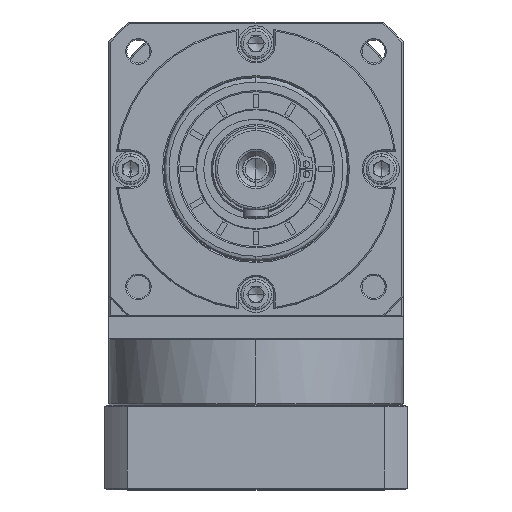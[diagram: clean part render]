
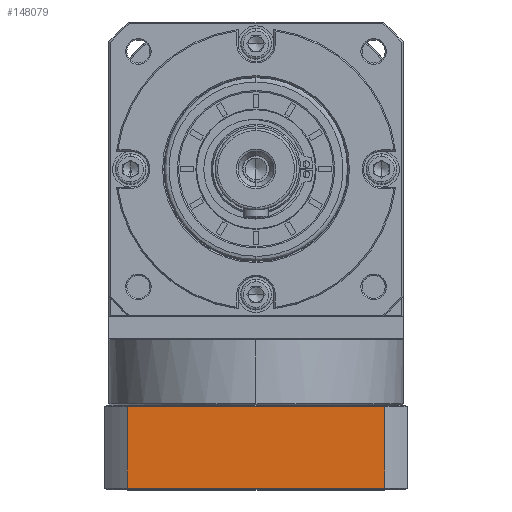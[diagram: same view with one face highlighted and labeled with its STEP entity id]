
A CAD part, top view. The second image highlights one B-rep face of the part: STEP entity #148079.
In plain terms, the highlighted planar face has unit normal (0, 0, 1).
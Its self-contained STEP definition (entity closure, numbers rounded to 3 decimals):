
#6654 = LINE ( 'NONE', #114725, #78145 ) ;
#9778 = ORIENTED_EDGE ( 'NONE', *, *, #35537, .F. ) ;
#15062 = EDGE_CURVE ( 'NONE', #149474, #130402, #68084, .T. ) ;
#19310 = DIRECTION ( 'NONE',  ( 1., 0., 0. ) ) ;
#22248 = VERTEX_POINT ( 'NONE', #64813 ) ;
#26139 = VECTOR ( 'NONE', #19310, 1000. ) ;
#34296 = DIRECTION ( 'NONE',  ( 0., -1., 0. ) ) ;
#35537 = EDGE_CURVE ( 'NONE', #22248, #47627, #133291, .T. ) ;
#36033 = CARTESIAN_POINT ( 'NONE',  ( -255.059, -145.022, 41.673 ) ) ;
#45707 = VECTOR ( 'NONE', #129567, 1000. ) ;
#47627 = VERTEX_POINT ( 'NONE', #124845 ) ;
#48207 = EDGE_LOOP ( 'NONE', ( #68742, #9778, #169829, #85722 ) ) ;
#48873 = PLANE ( 'NONE',  #147494 ) ;
#49435 = DIRECTION ( 'NONE',  ( -1., 0., 0. ) ) ;
#64813 = CARTESIAN_POINT ( 'NONE',  ( -246.311, -112.522, 41.673 ) ) ;
#68084 = LINE ( 'NONE', #153663, #171173 ) ;
#68742 = ORIENTED_EDGE ( 'NONE', *, *, #112290, .F. ) ;
#73119 = DIRECTION ( 'NONE',  ( -1., 0., 0. ) ) ;
#78145 = VECTOR ( 'NONE', #34296, 1000. ) ;
#83514 = EDGE_CURVE ( 'NONE', #130402, #22248, #152984, .T. ) ;
#85722 = ORIENTED_EDGE ( 'NONE', *, *, #15062, .F. ) ;
#93910 = CARTESIAN_POINT ( 'NONE',  ( -246.311, -144.522, 41.673 ) ) ;
#99714 = CARTESIAN_POINT ( 'NONE',  ( -255.059, -112.522, 41.673 ) ) ;
#112290 = EDGE_CURVE ( 'NONE', #47627, #149474, #6654, .T. ) ;
#114725 = CARTESIAN_POINT ( 'NONE',  ( -145.807, 109.373, 41.673 ) ) ;
#115686 = FACE_OUTER_BOUND ( 'NONE', #48207, .T. ) ;
#116092 = CARTESIAN_POINT ( 'NONE',  ( -246.311, -145.022, 41.673 ) ) ;
#124845 = CARTESIAN_POINT ( 'NONE',  ( -145.807, -112.522, 41.673 ) ) ;
#129567 = DIRECTION ( 'NONE',  ( 0., 1., 0. ) ) ;
#129909 = DIRECTION ( 'NONE',  ( 0., 0., -1. ) ) ;
#130402 = VERTEX_POINT ( 'NONE', #93910 ) ;
#133291 = LINE ( 'NONE', #99714, #26139 ) ;
#138723 = CARTESIAN_POINT ( 'NONE',  ( -145.807, -144.522, 41.673 ) ) ;
#147494 = AXIS2_PLACEMENT_3D ( 'NONE', #36033, #129909, #49435 ) ;
#148079 = ADVANCED_FACE ( 'NONE', ( #115686 ), #48873, .F. ) ;
#149474 = VERTEX_POINT ( 'NONE', #138723 ) ;
#152984 = LINE ( 'NONE', #116092, #45707 ) ;
#153663 = CARTESIAN_POINT ( 'NONE',  ( -255.059, -144.522, 41.673 ) ) ;
#169829 = ORIENTED_EDGE ( 'NONE', *, *, #83514, .F. ) ;
#171173 = VECTOR ( 'NONE', #73119, 1000. ) ;
